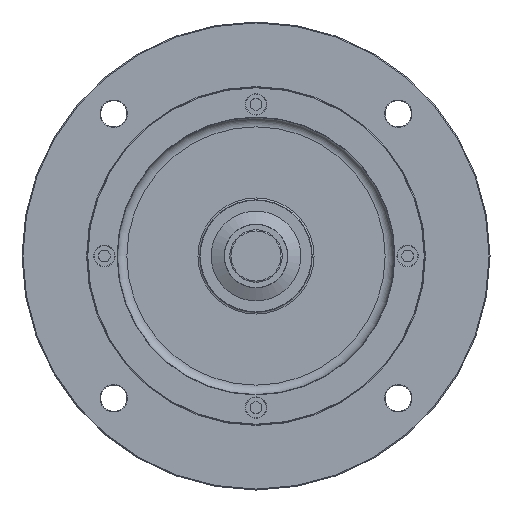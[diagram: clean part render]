
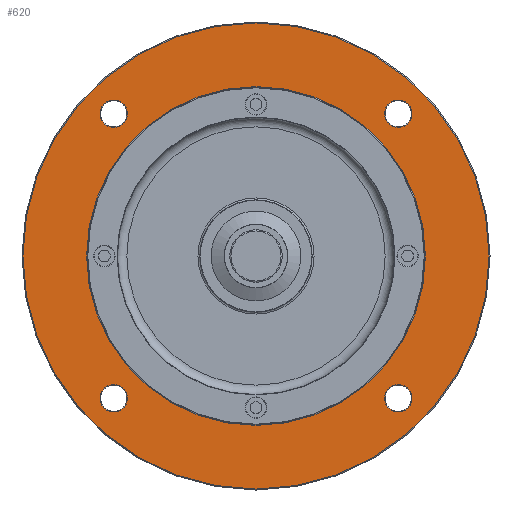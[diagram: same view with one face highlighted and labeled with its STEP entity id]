
A CAD part, front view. The second image highlights one B-rep face of the part: STEP entity #620.
In plain terms, the highlighted planar face has unit normal (0, -1, 0).
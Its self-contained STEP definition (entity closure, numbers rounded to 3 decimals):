
#620=ADVANCED_FACE('',(#1074,#1075,#1076,#1077,#1078,#912),#853,.T.);
#853=PLANE('',#3492);
#912=FACE_OUTER_BOUND('',#1332,.T.);
#1074=FACE_BOUND('',#1327,.T.);
#1075=FACE_BOUND('',#1328,.T.);
#1076=FACE_BOUND('',#1329,.T.);
#1077=FACE_BOUND('',#1330,.T.);
#1078=FACE_BOUND('',#1331,.T.);
#1327=EDGE_LOOP('',(#1737));
#1328=EDGE_LOOP('',(#1738));
#1329=EDGE_LOOP('',(#1739));
#1330=EDGE_LOOP('',(#1740));
#1331=EDGE_LOOP('',(#1741));
#1332=EDGE_LOOP('',(#1742));
#1737=ORIENTED_EDGE('',*,*,#2809,.T.);
#1738=ORIENTED_EDGE('',*,*,#2810,.T.);
#1739=ORIENTED_EDGE('',*,*,#2811,.T.);
#1740=ORIENTED_EDGE('',*,*,#2812,.T.);
#1741=ORIENTED_EDGE('',*,*,#2813,.T.);
#1742=ORIENTED_EDGE('',*,*,#2814,.T.);
#2501=VERTEX_POINT('',#5189);
#2502=VERTEX_POINT('',#5191);
#2503=VERTEX_POINT('',#5193);
#2504=VERTEX_POINT('',#5195);
#2505=VERTEX_POINT('',#5197);
#2506=VERTEX_POINT('',#5199);
#2809=EDGE_CURVE('',#2501,#2501,#3191,.T.);
#2810=EDGE_CURVE('',#2502,#2502,#3192,.T.);
#2811=EDGE_CURVE('',#2503,#2503,#3193,.T.);
#2812=EDGE_CURVE('',#2504,#2504,#3194,.T.);
#2813=EDGE_CURVE('',#2505,#2505,#3195,.T.);
#2814=EDGE_CURVE('',#2506,#2506,#3196,.T.);
#3191=CIRCLE('',#3486,90.5);
#3192=CIRCLE('',#3487,7.3);
#3193=CIRCLE('',#3488,7.3);
#3194=CIRCLE('',#3489,7.3);
#3195=CIRCLE('',#3490,7.3);
#3196=CIRCLE('',#3491,124.5);
#3486=AXIS2_PLACEMENT_3D('',#5188,#4030,#4031);
#3487=AXIS2_PLACEMENT_3D('',#5190,#4032,#4033);
#3488=AXIS2_PLACEMENT_3D('',#5192,#4034,#4035);
#3489=AXIS2_PLACEMENT_3D('',#5194,#4036,#4037);
#3490=AXIS2_PLACEMENT_3D('',#5196,#4038,#4039);
#3491=AXIS2_PLACEMENT_3D('',#5198,#4040,#4041);
#3492=AXIS2_PLACEMENT_3D('',#5200,#4042,#4043);
#4030=DIRECTION('',(0.,1.,0.));
#4031=DIRECTION('',(0.,0.,-1.));
#4032=DIRECTION('',(0.,1.,0.));
#4033=DIRECTION('',(0.,0.,-1.));
#4034=DIRECTION('',(0.,1.,0.));
#4035=DIRECTION('',(0.,0.,-1.));
#4036=DIRECTION('',(0.,1.,0.));
#4037=DIRECTION('',(0.,0.,-1.));
#4038=DIRECTION('',(0.,1.,0.));
#4039=DIRECTION('',(0.,0.,-1.));
#4040=DIRECTION('',(0.,-1.,0.));
#4041=DIRECTION('',(0.,0.,-1.));
#4042=DIRECTION('',(0.,-1.,0.));
#4043=DIRECTION('',(0.,0.,-1.));
#5188=CARTESIAN_POINT('',(0.,0.,0.));
#5189=CARTESIAN_POINT('',(0.,0.,-90.5));
#5190=CARTESIAN_POINT('',(76.014,0.,76.014));
#5191=CARTESIAN_POINT('',(76.014,0.,68.714));
#5192=CARTESIAN_POINT('',(76.014,0.,-76.014));
#5193=CARTESIAN_POINT('',(76.014,0.,-83.314));
#5194=CARTESIAN_POINT('',(-76.014,0.,-76.014));
#5195=CARTESIAN_POINT('',(-76.014,0.,-83.314));
#5196=CARTESIAN_POINT('',(-76.014,0.,76.014));
#5197=CARTESIAN_POINT('',(-76.014,0.,68.714));
#5198=CARTESIAN_POINT('',(0.,0.,0.));
#5199=CARTESIAN_POINT('',(0.,0.,-124.5));
#5200=CARTESIAN_POINT('',(0.,0.,0.));
